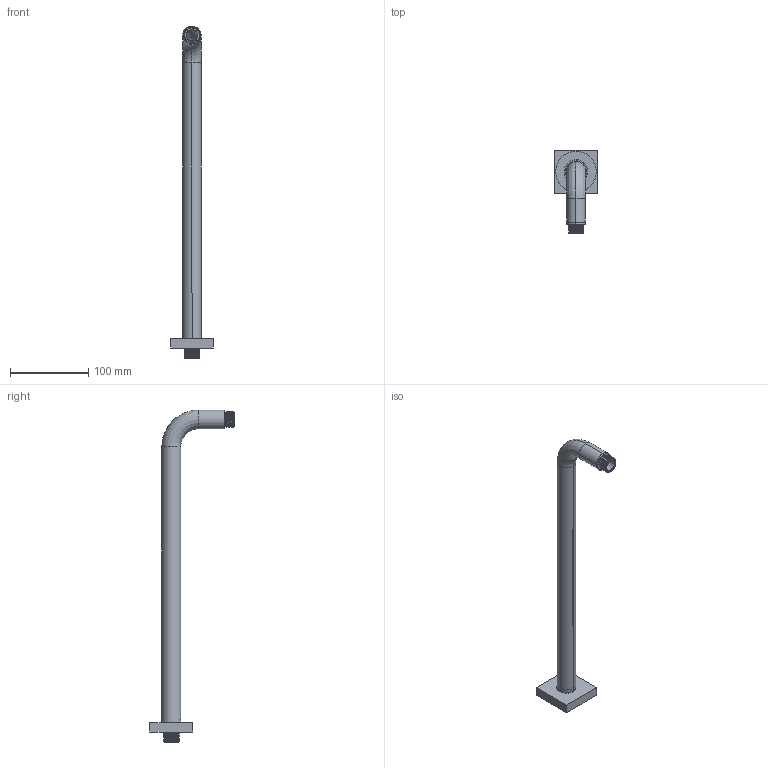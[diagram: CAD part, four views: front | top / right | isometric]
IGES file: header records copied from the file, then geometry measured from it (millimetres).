
Global section: file name: 26d5d32e-8ac6-46c5-8760-7bb6c9cf09ba; native system: unknown; preprocessor: unknown; author: unknown; organization: unknown; date: 20191214.180357; units: millimetre
Bounding box: 55 x 108 x 425 mm (x, y, z)
Volume: 48774.4 mm3; surface area: 82004.7 mm2
Topology: 5 solids, 5 shells, 71 faces, 163 edges, 110 vertices
Faces by surface type: bspline 71
